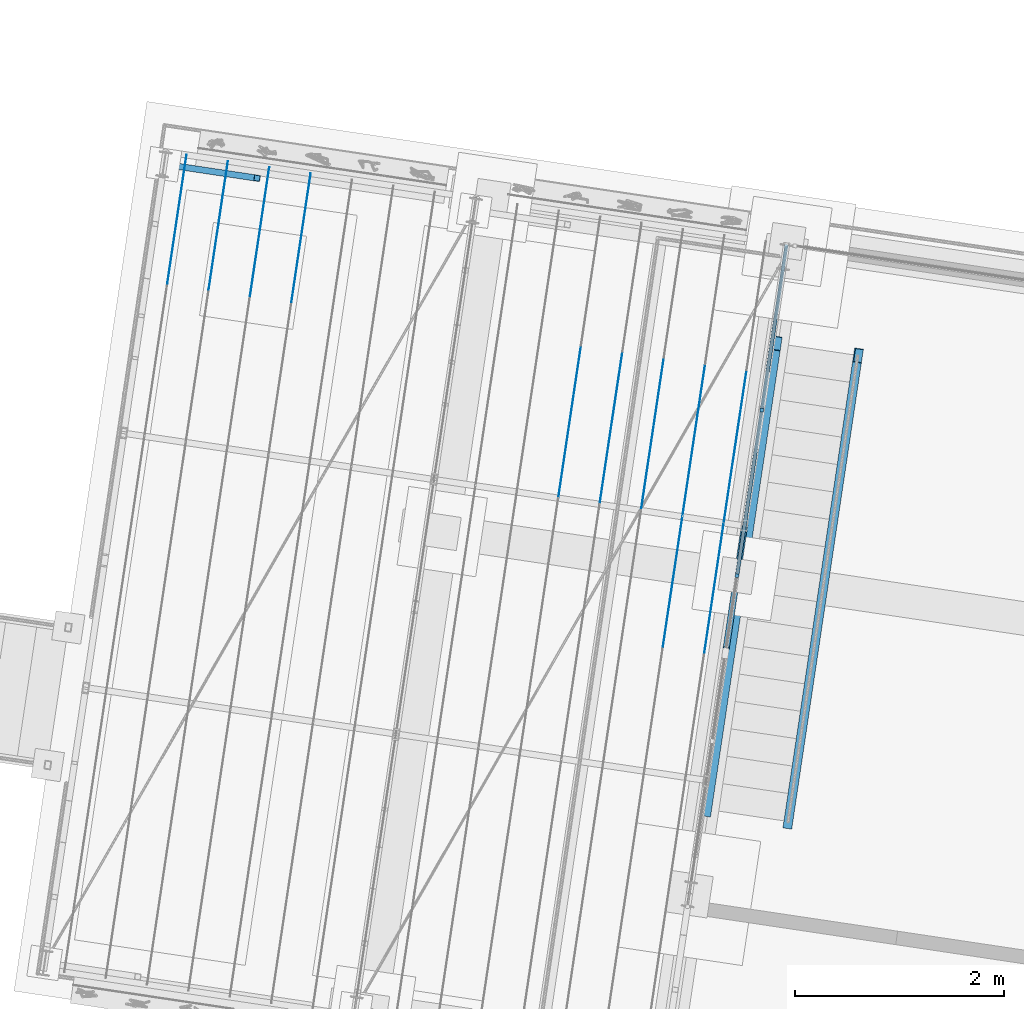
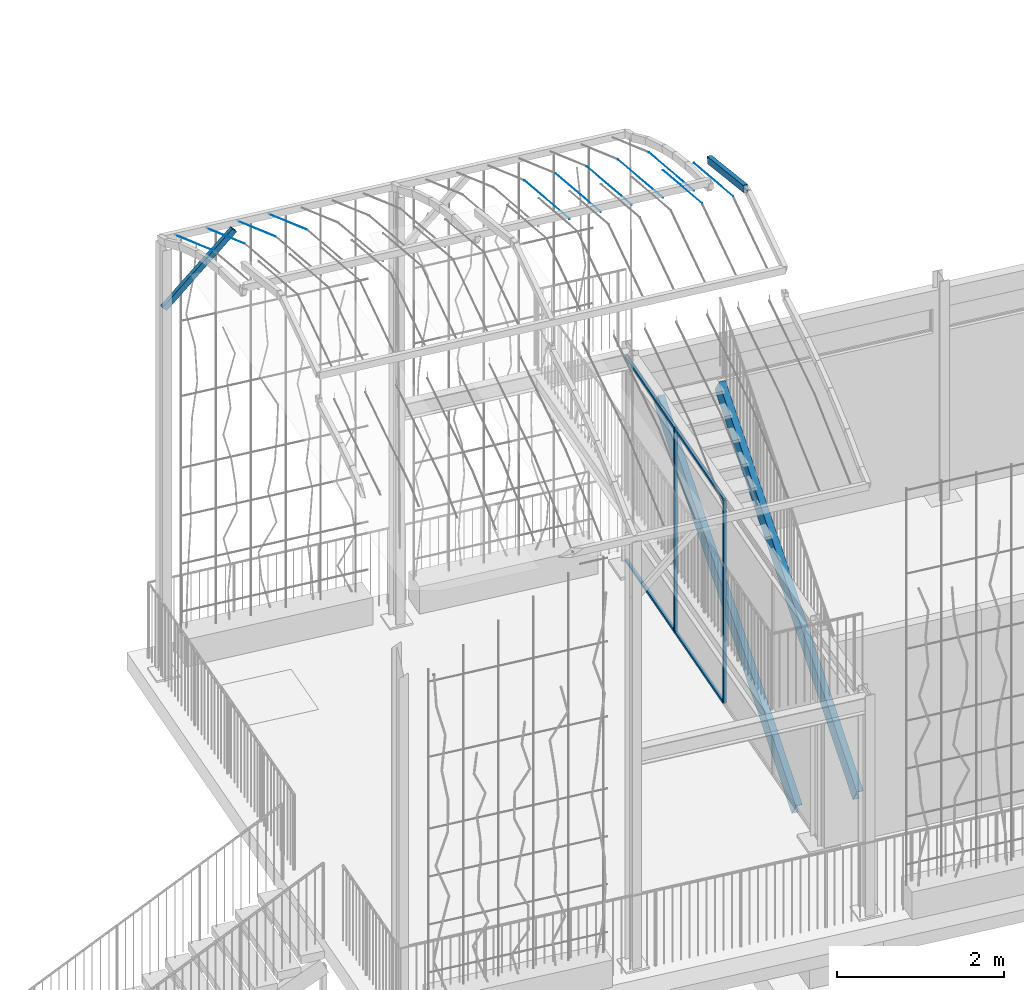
# One storey, part 29 of 142: 23 members, 2 elements without a shape of their own.
"""IFC4 building model written with IfcOpenShell, lengths in metres."""

from ifc_helpers import new_model, si_unit, direction, frame, origin_with_axes, place, context, subcontext, project, spatial, polyline, rectangle, hollow_rectangle, circle, outline, extrude, material, material_profile, profile_set, profile_usage, type_object, element, aggregate, save


model = new_model("IFC4")

# Units and contexts
model_context = context("Model", 3, precision=1e-05, world=origin_with_axes(), true_north=direction((0.0, 1.0)))
body_context = subcontext(model_context, "Body", "Model", "MODEL_VIEW")
ifc_project = project(units=[si_unit("AREAUNIT", "SQUARE_METRE"), si_unit("VOLUMEUNIT", "CUBIC_METRE"), si_unit("LENGTHUNIT", "METRE")], contexts=[model_context])

# Site, building, storey
site_placement = place(None, origin_with_axes())
site = spatial("IfcSite", under=ifc_project, at=site_placement, Name="Lares · Rua das Mercês · artigo 4771")
building_placement = place(site_placement, frame((15.0, 9.7, 14.65), z_axis=(0.0, 0.0, 1.0), x_axis=(0.989015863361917, -0.147809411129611, 0.0)))
building = spatial("IfcBuilding", under=site, at=building_placement, Name="Casa Sobreposta")
storey_placement = place(building_placement, origin_with_axes())
storey = spatial("IfcBuildingStorey", under=building, at=storey_placement, Name="00 · Habitação e estacionamento", Elevation=14.65)

# Members
ifc_material_1 = material(Name="Aço pintado / Stahl lackiert", Category="steel")
ifc_material_profile_1 = material_profile(ifc_material_1, rectangle(XDim=0.035, YDim=0.035))
ifc_profile_set_1 = profile_set([ifc_material_profile_1], Name="R0.035")
ifc_profile_usage_1 = profile_usage(ifc_profile_set_1)
member_type_1 = type_object("IfcMemberType", Name="R0.035 / steel", PredefinedType="NOTDEFINED", material=ifc_profile_set_1)
member_1_placement = place(storey_placement, frame((0.0, 3.2, 0.0), z_axis=(0.0, 0.0, 1.0), x_axis=(1.0, 0.0, 0.0)))
element("IfcMember", 1, at=member_1_placement, inside=storey, type_object=member_type_1, material=ifc_profile_usage_1, context=body_context, shape_type="SweptSolid", body=[
    extrude(rectangle(XDim=0.035, YDim=0.035), origin_with_axes(), (0.0, 0.0, 1.0), 2.968),
])
ifc_profile_usage_2 = profile_usage(ifc_profile_set_1)
member_2_placement = place(storey_placement, frame((0.0, 3.2, 0.0), z_axis=(0.0, 0.0, 1.0), x_axis=(1.0, 0.0, 0.0)))
element("IfcMember", 2, at=member_2_placement, inside=storey, type_object=member_type_1, material=ifc_profile_usage_2, context=body_context, shape_type="SweptSolid", body=[
    extrude(rectangle(XDim=0.035, YDim=0.035), origin_with_axes(), (0.0, 0.0, 1.0), 2.968),
])
ifc_profile_usage_3 = profile_usage(ifc_profile_set_1)
member_3_placement = place(storey_placement, frame((0.0, 4.8, 0.0), z_axis=(0.0, 0.0, 1.0), x_axis=(1.0, 0.0, 0.0)))
element("IfcMember", 3, at=member_3_placement, inside=storey, type_object=member_type_1, material=ifc_profile_usage_3, context=body_context, shape_type="SweptSolid", body=[
    extrude(rectangle(XDim=0.035, YDim=0.035), origin_with_axes(), (0.0, 0.0, 1.0), 2.968),
])
ifc_profile_usage_4 = profile_usage(ifc_profile_set_1)
member_4_placement = place(storey_placement, frame((0.0, 3.2, 0.0), z_axis=(0.0, 1.0, 0.0), x_axis=(1.0, 0.0, 0.0)))
element("IfcMember", 4, at=member_4_placement, inside=storey, type_object=member_type_1, material=ifc_profile_usage_4, Name="Fachada poente integralmente envidraçada · módulo 3 · travessa", context=body_context, shape_type="SweptSolid", body=[
    extrude(rectangle(XDim=0.035, YDim=0.035), origin_with_axes(), (0.0, 0.0, 1.0), 1.6),
])
ifc_profile_usage_5 = profile_usage(ifc_profile_set_1)
member_5_placement = place(storey_placement, frame((0.0, 3.2, 2.968), z_axis=(0.0, 1.0, 0.0), x_axis=(1.0, 0.0, 0.0)))
element("IfcMember", 5, at=member_5_placement, inside=storey, type_object=member_type_1, material=ifc_profile_usage_5, Name="Fachada poente integralmente envidraçada · módulo 3 · travessa", context=body_context, shape_type="SweptSolid", body=[
    extrude(rectangle(XDim=0.035, YDim=0.035), origin_with_axes(), (0.0, 0.0, 1.0), 1.6),
])
ifc_profile_usage_6 = profile_usage(ifc_profile_set_1)
member_6_placement = place(storey_placement, frame((0.0, 4.8, 0.0), z_axis=(0.0, 0.0, 1.0), x_axis=(1.0, 0.0, 0.0)))
element("IfcMember", 6, at=member_6_placement, inside=storey, type_object=member_type_1, material=ifc_profile_usage_6, context=body_context, shape_type="SweptSolid", body=[
    extrude(rectangle(XDim=0.035, YDim=0.035), origin_with_axes(), (0.0, 0.0, 1.0), 2.968),
])
ifc_profile_usage_7 = profile_usage(ifc_profile_set_1)
member_7_placement = place(storey_placement, frame((0.0, 4.8, 0.0), z_axis=(0.0, 1.0, 0.0), x_axis=(1.0, 0.0, 0.0)))
element("IfcMember", 7, at=member_7_placement, inside=storey, type_object=member_type_1, material=ifc_profile_usage_7, Name="Fachada poente integralmente envidraçada · módulo 4 · travessa", context=body_context, shape_type="SweptSolid", body=[
    extrude(rectangle(XDim=0.035, YDim=0.035), origin_with_axes(), (0.0, 0.0, 1.0), 1.6),
])
ifc_profile_usage_8 = profile_usage(ifc_profile_set_1)
member_8_placement = place(storey_placement, frame((0.0, 4.8, 2.968), z_axis=(0.0, 1.0, 0.0), x_axis=(1.0, 0.0, 0.0)))
element("IfcMember", 8, at=member_8_placement, inside=storey, type_object=member_type_1, material=ifc_profile_usage_8, Name="Fachada poente integralmente envidraçada · módulo 4 · travessa", context=body_context, shape_type="SweptSolid", body=[
    extrude(rectangle(XDim=0.035, YDim=0.035), origin_with_axes(), (0.0, 0.0, 1.0), 1.6),
])

# Stair, members
stair_placement = place(storey_placement, origin_with_axes())
stair = element("IfcStair", 9, at=stair_placement, inside=storey, Name="Escada sala", PredefinedType="STRAIGHT_RUN_STAIR")
ifc_material_profile_2 = material_profile(ifc_material_1, outline(polyline([(-0.0425, -0.12), (0.0425, -0.12), (0.0425, -0.1102), (-0.0325, -0.1102), (-0.0325, 0.1102), (0.0425, 0.1102), (0.0425, 0.12), (-0.0425, 0.12), (-0.0425, -0.12)])))
ifc_profile_set_2 = profile_set([ifc_material_profile_2], Name="C240")
ifc_profile_usage_9 = profile_usage(ifc_profile_set_2)
member_type_2 = type_object("IfcMemberType", Name="C240 / steel", PredefinedType="NOTDEFINED", material=ifc_profile_set_2)
member_9_placement = place(stair_placement, frame((0.0475, 0.9475, -0.1), z_axis=(0.0, 0.827216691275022, 0.561883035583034), x_axis=(1.0, 0.0, 0.0)))
member_9 = element("IfcMember", 10, at=member_9_placement, type_object=member_type_2, material=ifc_profile_usage_9, Name="Longarina metálica sala", context=body_context, shape_type="SweptSolid", body=[
    extrude(outline(polyline([(-0.0425, -0.12), (0.0425, -0.12), (0.0425, -0.1102), (-0.0325, -0.1102), (-0.0325, 0.1102), (0.0425, 0.1102), (0.0425, 0.12), (-0.0425, 0.12), (-0.0425, -0.12)])), origin_with_axes(), (0.0, 0.0, 1.0), 5.44597328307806),
])
ifc_profile_usage_10 = profile_usage(ifc_profile_set_2)
member_10_placement = place(stair_placement, frame((0.8325, 0.9475, -0.1), z_axis=(0.0, 0.827216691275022, 0.561883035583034), x_axis=(1.0, 0.0, 0.0)))
member_10 = element("IfcMember", 11, at=member_10_placement, type_object=member_type_2, material=ifc_profile_usage_10, Name="Longarina metálica sala", context=body_context, shape_type="SweptSolid", body=[
    extrude(outline(polyline([(-0.0425, -0.12), (0.0425, -0.12), (0.0425, -0.1102), (-0.0325, -0.1102), (-0.0325, 0.1102), (0.0425, 0.1102), (0.0425, 0.12), (-0.0425, 0.12), (-0.0425, -0.12)])), origin_with_axes(), (0.0, 0.0, 1.0), 5.44597328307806),
])
aggregate(stair, [member_9, member_10])

# Assembly, members
assembly_placement = place(storey_placement, origin_with_axes())
assembly = element("IfcElementAssembly", 12, at=assembly_placement, inside=storey, Name="Pérgola · prolongamento da estufa 6 m", ObjectType="PERGOLA_GREENHOUSE_EXTENSION", PredefinedType="USERDEFINED")
ifc_material_profile_3 = material_profile(ifc_material_1, hollow_rectangle(XDim=0.06, YDim=0.1, WallThickness=0.004))
ifc_profile_set_3 = profile_set([ifc_material_profile_3], Name="RHS100x60x4")
ifc_profile_usage_11 = profile_usage(ifc_profile_set_3)
member_type_3 = type_object("IfcMemberType", Name="RHS100x60x4 / steel", PredefinedType="NOTDEFINED", material=ifc_profile_set_3)
member_11_placement = place(assembly_placement, frame((0.0, 2.49770027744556, 7.96518238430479), z_axis=(0.0, 0.96007374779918, -0.279747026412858), x_axis=(1.0, 0.0, 0.0)))
member_11 = element("IfcMember", 13, at=member_11_placement, type_object=member_type_3, material=ifc_profile_usage_11, Name="Pérgola · arco contínuo com a estufa", context=body_context, shape_type="SweptSolid", body=[
    extrude(hollow_rectangle(XDim=0.06, YDim=0.1, WallThickness=0.004), origin_with_axes(), (0.0, 0.0, 1.0), 1.23148937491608),
])
ifc_material_profile_4 = material_profile(ifc_material_1, hollow_rectangle(XDim=0.06, YDim=0.08, WallThickness=0.004))
ifc_profile_set_4 = profile_set([ifc_material_profile_4], Name="RHS80x60x4")
ifc_profile_usage_12 = profile_usage(ifc_profile_set_4)
member_type_4 = type_object("IfcMemberType", Name="RHS80x60x4 / steel", PredefinedType="NOTDEFINED", material=ifc_profile_set_4)
member_12_placement = place(assembly_placement, frame((-6.0, 6.28, 5.3), z_axis=(0.699294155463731, 0.0, 0.714834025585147), x_axis=(0.0, -1.0, 0.0)))
member_12 = element("IfcMember", 14, at=member_12_placement, type_object=member_type_4, material=ifc_profile_usage_12, Name="Pérgola · escora alta", context=body_context, shape_type="SweptSolid", body=[
    extrude(hollow_rectangle(XDim=0.06, YDim=0.08, WallThickness=0.004), origin_with_axes(), (0.0, 0.0, 1.0), 1.28701204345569),
])
ifc_material_2 = material(Name="Aço galvanizado / Stahl verzinkt", Category="steel")
ifc_material_profile_5 = material_profile(ifc_material_2, circle(Radius=0.002))
ifc_profile_set_5 = profile_set([ifc_material_profile_5], Name="D0.004")
ifc_profile_usage_13 = profile_usage(ifc_profile_set_5)
member_type_5 = type_object("IfcMemberType", Name="D0.004 / galvanized", PredefinedType="NOTDEFINED", material=ifc_profile_set_5)
member_13_placement = place(assembly_placement, frame((-5.8, 5.15650506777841, 6.8157371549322), z_axis=(0.0, 0.905864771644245, -0.423567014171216), x_axis=(1.0, 0.0, 0.0)))
member_13 = element("IfcMember", 15, at=member_13_placement, type_object=member_type_5, material=ifc_profile_usage_13, Name="Pérgola · fio para trepadeiras", context=body_context, shape_type="SweptSolid", body=[
    extrude(circle(Radius=0.002), origin_with_axes(), (0.0, 0.0, 1.0), 1.3727158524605),
])
ifc_profile_usage_14 = profile_usage(ifc_profile_set_5)
member_14_placement = place(assembly_placement, frame((-5.4, 5.15650506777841, 6.8157371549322), z_axis=(0.0, 0.905864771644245, -0.423567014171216), x_axis=(1.0, 0.0, 0.0)))
member_14 = element("IfcMember", 16, at=member_14_placement, type_object=member_type_5, material=ifc_profile_usage_14, Name="Pérgola · fio para trepadeiras", context=body_context, shape_type="SweptSolid", body=[
    extrude(circle(Radius=0.002), origin_with_axes(), (0.0, 0.0, 1.0), 1.3727158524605),
])
ifc_profile_usage_15 = profile_usage(ifc_profile_set_5)
member_15_placement = place(assembly_placement, frame((-5.0, 5.15650506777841, 6.8157371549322), z_axis=(0.0, 0.905864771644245, -0.423567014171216), x_axis=(1.0, 0.0, 0.0)))
member_15 = element("IfcMember", 17, at=member_15_placement, type_object=member_type_5, material=ifc_profile_usage_15, Name="Pérgola · fio para trepadeiras", context=body_context, shape_type="SweptSolid", body=[
    extrude(circle(Radius=0.002), origin_with_axes(), (0.0, 0.0, 1.0), 1.3727158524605),
])
ifc_profile_usage_16 = profile_usage(ifc_profile_set_5)
member_16_placement = place(assembly_placement, frame((-4.6, 5.15650506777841, 6.8157371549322), z_axis=(0.0, 0.905864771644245, -0.423567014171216), x_axis=(1.0, 0.0, 0.0)))
member_16 = element("IfcMember", 18, at=member_16_placement, type_object=member_type_5, material=ifc_profile_usage_16, Name="Pérgola · fio para trepadeiras", context=body_context, shape_type="SweptSolid", body=[
    extrude(circle(Radius=0.002), origin_with_axes(), (0.0, 0.0, 1.0), 1.3727158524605),
])
ifc_profile_usage_17 = profile_usage(ifc_profile_set_5)
member_17_placement = place(assembly_placement, frame((-1.8, 3.68573096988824, 7.21327919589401), z_axis=(0.0, 0.965357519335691, -0.260930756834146), x_axis=(1.0, 0.0, 0.0)))
member_17 = element("IfcMember", 19, at=member_17_placement, type_object=member_type_5, material=ifc_profile_usage_17, Name="Pérgola · fio para trepadeiras", context=body_context, shape_type="SweptSolid", body=[
    extrude(circle(Radius=0.002), origin_with_axes(), (0.0, 0.0, 1.0), 1.523553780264),
])
ifc_profile_usage_18 = profile_usage(ifc_profile_set_5)
member_18_placement = place(assembly_placement, frame((-1.4, 3.68573096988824, 7.21327919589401), z_axis=(0.0, 0.965357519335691, -0.260930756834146), x_axis=(1.0, 0.0, 0.0)))
member_18 = element("IfcMember", 20, at=member_18_placement, type_object=member_type_5, material=ifc_profile_usage_18, Name="Pérgola · fio para trepadeiras", context=body_context, shape_type="SweptSolid", body=[
    extrude(circle(Radius=0.002), origin_with_axes(), (0.0, 0.0, 1.0), 1.523553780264),
])
ifc_profile_usage_19 = profile_usage(ifc_profile_set_5)
member_19_placement = place(assembly_placement, frame((-0.999999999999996, 3.68573096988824, 7.21327919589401), z_axis=(0.0, 0.965357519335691, -0.260930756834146), x_axis=(1.0, 0.0, 0.0)))
member_19 = element("IfcMember", 21, at=member_19_placement, type_object=member_type_5, material=ifc_profile_usage_19, Name="Pérgola · fio para trepadeiras", context=body_context, shape_type="SweptSolid", body=[
    extrude(circle(Radius=0.002), origin_with_axes(), (0.0, 0.0, 1.0), 1.523553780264),
])
ifc_profile_usage_20 = profile_usage(ifc_profile_set_5)
member_20_placement = place(assembly_placement, frame((-0.599999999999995, 2.40274082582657, 7.96518238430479), z_axis=(0.0, 0.965497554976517, -0.260412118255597), x_axis=(1.0, 0.0, 0.0)))
member_20 = element("IfcMember", 22, at=member_20_placement, type_object=member_type_5, material=ifc_profile_usage_20, Name="Pérgola · fio para trepadeiras", context=body_context, shape_type="SweptSolid", body=[
    extrude(circle(Radius=0.002), origin_with_axes(), (0.0, 0.0, 1.0), 1.32292419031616),
])
ifc_profile_usage_21 = profile_usage(ifc_profile_set_5)
member_21_placement = place(assembly_placement, frame((-0.599999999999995, 3.68573096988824, 7.21327919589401), z_axis=(0.0, 0.965357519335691, -0.260930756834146), x_axis=(1.0, 0.0, 0.0)))
member_21 = element("IfcMember", 23, at=member_21_placement, type_object=member_type_5, material=ifc_profile_usage_21, Name="Pérgola · fio para trepadeiras", context=body_context, shape_type="SweptSolid", body=[
    extrude(circle(Radius=0.002), origin_with_axes(), (0.0, 0.0, 1.0), 1.523553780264),
])
ifc_profile_usage_22 = profile_usage(ifc_profile_set_5)
member_22_placement = place(assembly_placement, frame((-0.199999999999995, 2.40274082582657, 7.96518238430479), z_axis=(0.0, 0.965497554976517, -0.260412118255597), x_axis=(1.0, 0.0, 0.0)))
member_22 = element("IfcMember", 24, at=member_22_placement, type_object=member_type_5, material=ifc_profile_usage_22, Name="Pérgola · fio para trepadeiras", context=body_context, shape_type="SweptSolid", body=[
    extrude(circle(Radius=0.002), origin_with_axes(), (0.0, 0.0, 1.0), 1.32292419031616),
])
ifc_profile_usage_23 = profile_usage(ifc_profile_set_5)
member_23_placement = place(assembly_placement, frame((-0.199999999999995, 3.68573096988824, 7.21327919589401), z_axis=(0.0, 0.965357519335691, -0.260930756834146), x_axis=(1.0, 0.0, 0.0)))
member_23 = element("IfcMember", 25, at=member_23_placement, type_object=member_type_5, material=ifc_profile_usage_23, Name="Pérgola · fio para trepadeiras", context=body_context, shape_type="SweptSolid", body=[
    extrude(circle(Radius=0.002), origin_with_axes(), (0.0, 0.0, 1.0), 1.523553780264),
])
aggregate(assembly, [member_11, member_12, member_13, member_14, member_15, member_16, member_17, member_18, member_19, member_20, member_21, member_22, member_23])

save(model, "model.ifc")
